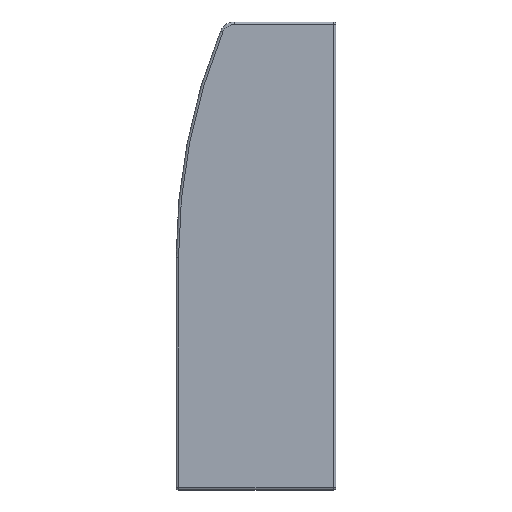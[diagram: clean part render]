
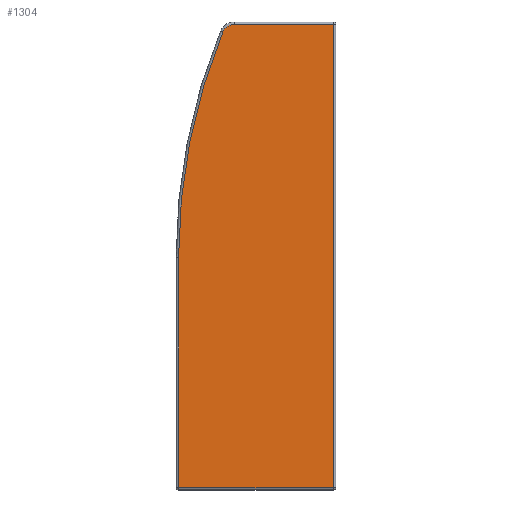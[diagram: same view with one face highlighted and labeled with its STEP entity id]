
A CAD part, front view. The second image highlights one B-rep face of the part: STEP entity #1304.
In plain terms, the highlighted planar face has unit normal (0, -1, 0).
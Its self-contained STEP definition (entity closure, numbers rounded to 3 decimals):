
#48 = EDGE_LOOP ( 'NONE', ( #1157, #1086, #1087, #1088, #1089, #1090 ) ) ;
#89 = AXIS2_PLACEMENT_3D ( 'NONE', #846, #844, #843 ) ;
#97 = AXIS2_PLACEMENT_3D ( 'NONE', #598, #590, #589 ) ;
#109 = AXIS2_PLACEMENT_3D ( 'NONE', #838, #836, #835 ) ;
#120 = EDGE_CURVE ( 'NONE', #642, #663, #434, .T. ) ;
#136 = EDGE_CURVE ( 'NONE', #663, #693, #455, .T. ) ;
#175 = EDGE_CURVE ( 'NONE', #698, #642, #409, .T. ) ;
#210 = EDGE_CURVE ( 'NONE', #693, #688, #368, .T. ) ;
#220 = EDGE_CURVE ( 'NONE', #688, #634, #364, .T. ) ;
#255 = EDGE_CURVE ( 'NONE', #634, #698, #323, .T. ) ;
#290 = FACE_OUTER_BOUND ( 'NONE', #48, .T. ) ;
#321 = VECTOR ( 'NONE', #760, 1000. ) ;
#323 = LINE ( 'NONE', #762, #321 ) ;
#364 = CIRCLE ( 'NONE', #109, 2.5 ) ;
#368 = CIRCLE ( 'NONE', #89, 121.5 ) ;
#407 = VECTOR ( 'NONE', #883, 1000. ) ;
#409 = LINE ( 'NONE', #884, #407 ) ;
#434 = LINE ( 'NONE', #982, #469 ) ;
#451 = VECTOR ( 'NONE', #948, 1000. ) ;
#455 = LINE ( 'NONE', #960, #451 ) ;
#469 = VECTOR ( 'NONE', #979, 1000. ) ;
#589 = DIRECTION ( 'NONE',  ( -1., 0., 0. ) ) ;
#590 = DIRECTION ( 'NONE',  ( 0., -1., 0. ) ) ;
#598 = CARTESIAN_POINT ( 'NONE',  ( 96., -5.2, 24.139 ) ) ;
#603 = PLANE ( 'NONE',  #97 ) ;
#634 = VERTEX_POINT ( 'NONE', #704 ) ;
#642 = VERTEX_POINT ( 'NONE', #701 ) ;
#663 = VERTEX_POINT ( 'NONE', #695 ) ;
#686 = CARTESIAN_POINT ( 'NONE',  ( 6., -5.2, 71.55 ) ) ;
#687 = CARTESIAN_POINT ( 'NONE',  ( -25.5, -5.2, 24.139 ) ) ;
#688 = VERTEX_POINT ( 'NONE', #689 ) ;
#689 = CARTESIAN_POINT ( 'NONE',  ( -16.515, -5.2, 69.993 ) ) ;
#693 = VERTEX_POINT ( 'NONE', #687 ) ;
#695 = CARTESIAN_POINT ( 'NONE',  ( -25.5, -5.2, -22.6 ) ) ;
#698 = VERTEX_POINT ( 'NONE', #686 ) ;
#701 = CARTESIAN_POINT ( 'NONE',  ( 6., -5.2, -22.6 ) ) ;
#704 = CARTESIAN_POINT ( 'NONE',  ( -14.2, -5.2, 71.55 ) ) ;
#760 = DIRECTION ( 'NONE',  ( 1., 0., 0. ) ) ;
#762 = CARTESIAN_POINT ( 'NONE',  ( 96., -5.2, 71.55 ) ) ;
#835 = DIRECTION ( 'NONE',  ( -1., 0., 0. ) ) ;
#836 = DIRECTION ( 'NONE',  ( 0., 1., 0. ) ) ;
#838 = CARTESIAN_POINT ( 'NONE',  ( -14.2, -5.2, 69.05 ) ) ;
#843 = DIRECTION ( 'NONE',  ( -1., 0., 0. ) ) ;
#844 = DIRECTION ( 'NONE',  ( 0., 1., 0. ) ) ;
#846 = CARTESIAN_POINT ( 'NONE',  ( 96., -5.2, 24.139 ) ) ;
#883 = DIRECTION ( 'NONE',  ( 0., 0., -1. ) ) ;
#884 = CARTESIAN_POINT ( 'NONE',  ( 6., -5.2, 24.139 ) ) ;
#948 = DIRECTION ( 'NONE',  ( 0., 0., 1. ) ) ;
#960 = CARTESIAN_POINT ( 'NONE',  ( -25.5, -5.2, 24.139 ) ) ;
#979 = DIRECTION ( 'NONE',  ( -1., 0., 0. ) ) ;
#982 = CARTESIAN_POINT ( 'NONE',  ( 96., -5.2, -22.6 ) ) ;
#1086 = ORIENTED_EDGE ( 'NONE', *, *, #220, .F. ) ;
#1087 = ORIENTED_EDGE ( 'NONE', *, *, #210, .F. ) ;
#1088 = ORIENTED_EDGE ( 'NONE', *, *, #136, .F. ) ;
#1089 = ORIENTED_EDGE ( 'NONE', *, *, #120, .F. ) ;
#1090 = ORIENTED_EDGE ( 'NONE', *, *, #175, .F. ) ;
#1157 = ORIENTED_EDGE ( 'NONE', *, *, #255, .F. ) ;
#1304 = ADVANCED_FACE ( 'NONE', ( #290 ), #603, .T. ) ;
